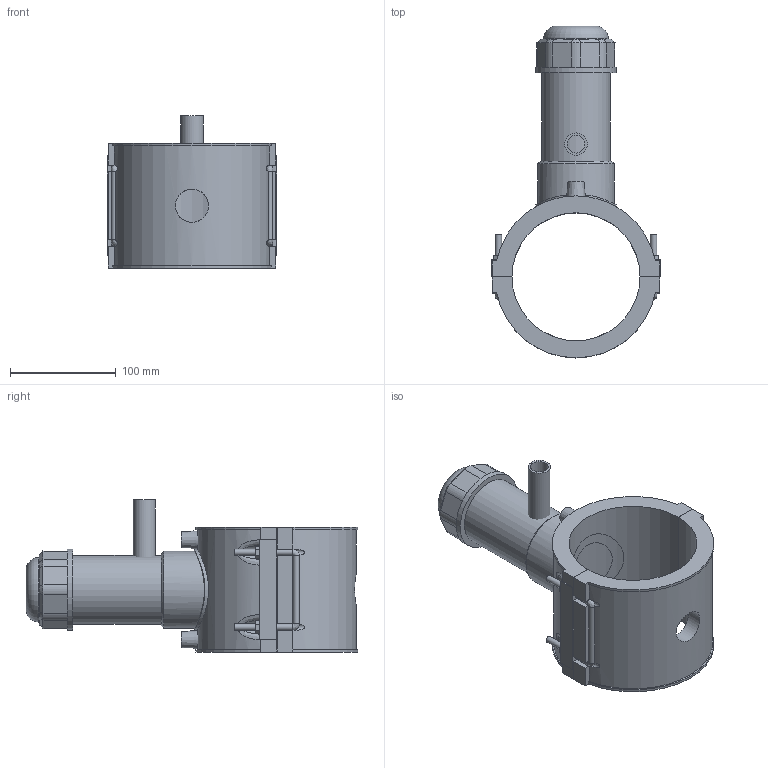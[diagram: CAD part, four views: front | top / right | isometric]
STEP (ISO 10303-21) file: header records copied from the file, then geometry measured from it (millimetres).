
FILE_DESCRIPTION(/* description */ ('PLASSON TAPPING SADDLE 4''''DIPS x 1/2''''IPS'),/* implementation_level */ '2;1');
FILE_NAME(/* name */ 'C:\Dropbox\KIMPROJECTS-Inventor 2019\99-16-3568-Processing Inch\ASTM ElectroFusion 2021\5963DBP_5963BUP\5963DBP3040005.ipt.stp',/* time_stamp */ '2021-08-30T09:58:16+03:00',/* author */ ('KIM'),/* organization */ (''),/* preprocessor_version */ 'ST-DEVELOPER v17.2',/* originating_system */ 'Autodesk Inventor 2019',/* authorisation */ '');
FILE_SCHEMA (('AUTOMOTIVE_DESIGN { 1 0 10303 214 3 1 1 }'));
Length unit declared in the file: inch
Products named in the file (1): 5963DBP3040005
Bounding box: 161 x 314.4 x 144.15 mm (x, y, z)
Volume: 1146854.5 mm3; surface area: 217356.8 mm2
Topology: 3 solids, 3 shells, 194 faces, 502 edges, 328 vertices
Faces by surface type: plane 118, cylinder 52, cone 15, bspline 8, torus 1
Full cylindrical faces by diameter (mm): 4 x2, 6 x8, 10 x2, 16.96 x1, 21.2 x1, 31.36 x1, 53.493 x1, 61.135 x1, 64.956 x1, 72.598 x1, 76.419 x2
Entity records: 7083 total; most frequent: CARTESIAN_POINT 2282, ORIENTED_EDGE 1004, DIRECTION 953, EDGE_CURVE 502, VERTEX_POINT 328, AXIS2_PLACEMENT_3D 322, LINE 309, VECTOR 309
